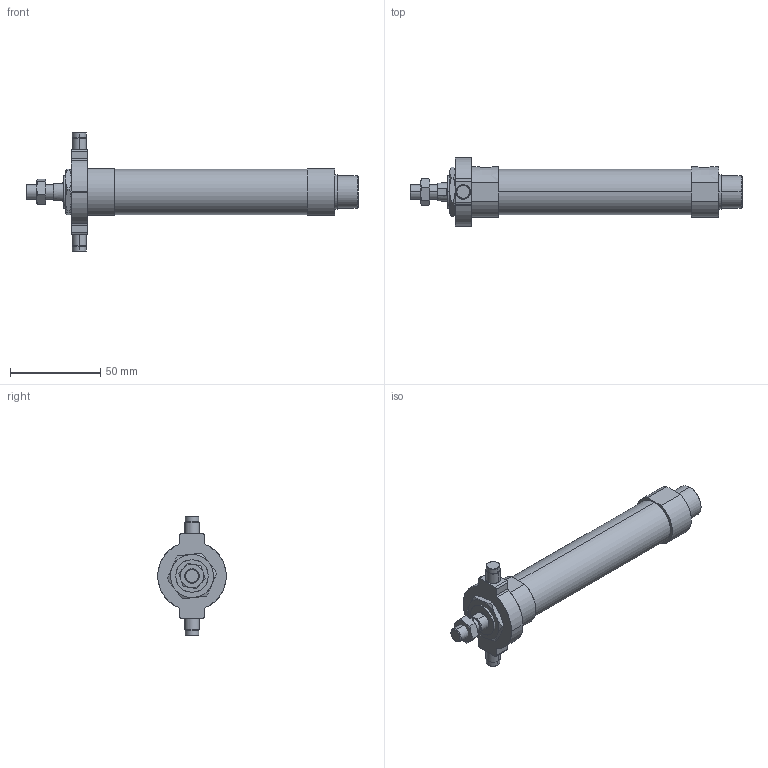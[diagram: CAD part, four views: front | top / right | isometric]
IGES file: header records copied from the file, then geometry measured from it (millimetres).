
Start section: SolidWorks IGES file using analytic representation for surfaces
Global section: file name: C:\Users\Toshiba\Desktop\J#2-20-75-T.IGS; native system: SolidWorks 2014; preprocessor: SolidWorks 2014; author: Toshiba; date: 160308.150039; units: millimetre
Bounding box: 184 x 38 x 66 mm (x, y, z)
Surface area: 20887.2 mm2 (no closed solid volume)
Topology: 0 solids, 0 shells, 131 faces, 2124 edges, 2124 vertices
Faces by surface type: bspline 70, revolution 61
